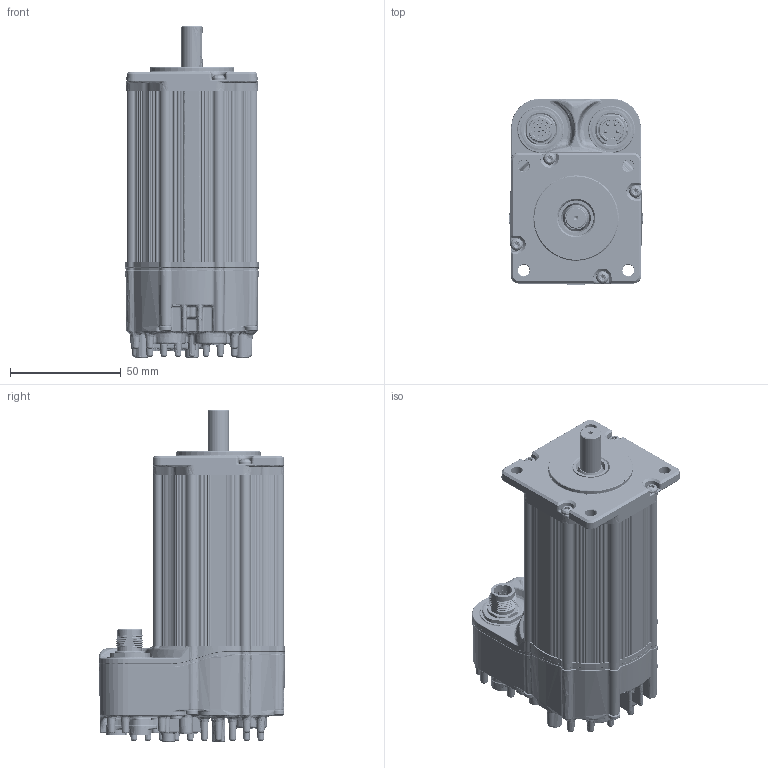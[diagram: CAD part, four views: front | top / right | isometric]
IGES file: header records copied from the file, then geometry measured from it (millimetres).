
Start section: SolidWorks IGES file using analytic representation for surfaces
Global section: file name: C:\TeknicPDM\EtherPath CPM-S\EtherPath CPM-S Customer Files\EC Customer Models\233x EC.IGS; native system: SolidWorks 2020; preprocessor: SolidWorks 2020; author: mike_berezny; date: 231213.170220; units: inch
Bounding box: 60.26 x 84.12 x 149.81 mm (x, y, z)
Surface area: 127013.4 mm2 (no closed solid volume)
Topology: 0 solids, 0 shells, 11895 faces, 107255 edges, 106567 vertices
Faces by surface type: bspline 6162, revolution 5733
